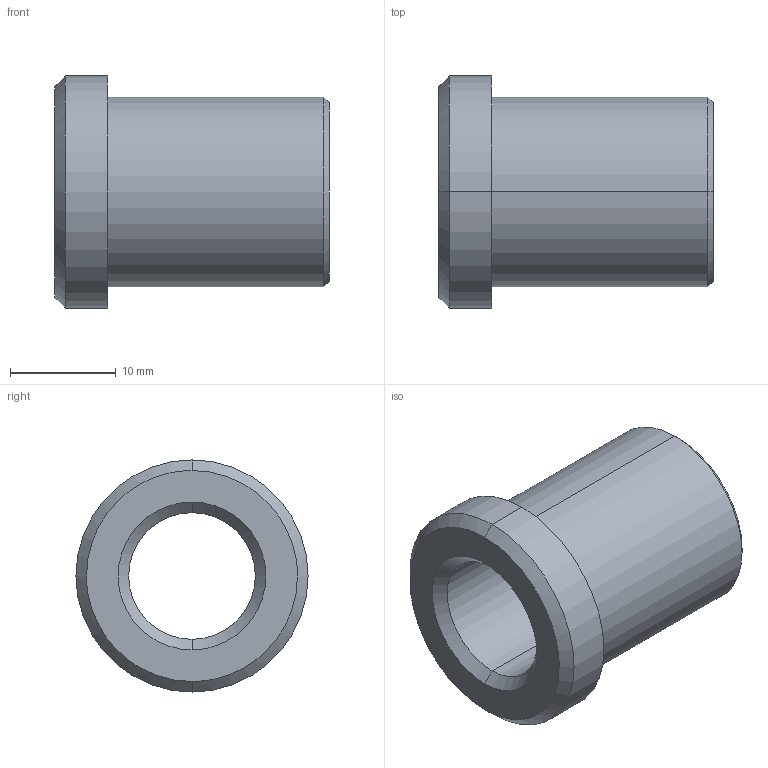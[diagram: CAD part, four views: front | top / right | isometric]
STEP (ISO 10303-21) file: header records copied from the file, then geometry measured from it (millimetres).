
FILE_DESCRIPTION(('CATIA V5 STEP Exchange'),'2;1');
FILE_NAME('C:\Users\Utente\Desktop\IO LAVORO\3D X SITO CF\X SITO\PLASTICA\353\353-12X26.stp','2021-04-21T12:22:16+00:00',('none'),('none'),'CATIA Version 5 Release 20 GA (IN-10)','CATIA V5 STEP AP203','none');
FILE_SCHEMA(('CONFIG_CONTROL_DESIGN'));
Length unit declared in the file: millimetre
Products named in the file (1): 353-12X26
Bounding box: 26 x 22 x 22 mm (x, y, z)
Volume: 4235.2 mm3; surface area: 2952.2 mm2
Topology: 1 solids, 1 shells, 17 faces, 54 edges, 40 vertices
Faces by surface type: cone 6, cylinder 6, plane 3, torus 2
Entity records: 746 total; most frequent: CARTESIAN_POINT 224, ORIENTED_EDGE 108, DIRECTION 80, EDGE_CURVE 54, AXIS2_PLACEMENT_3D 52, VERTEX_POINT 40, CIRCLE 34, EDGE_LOOP 20
